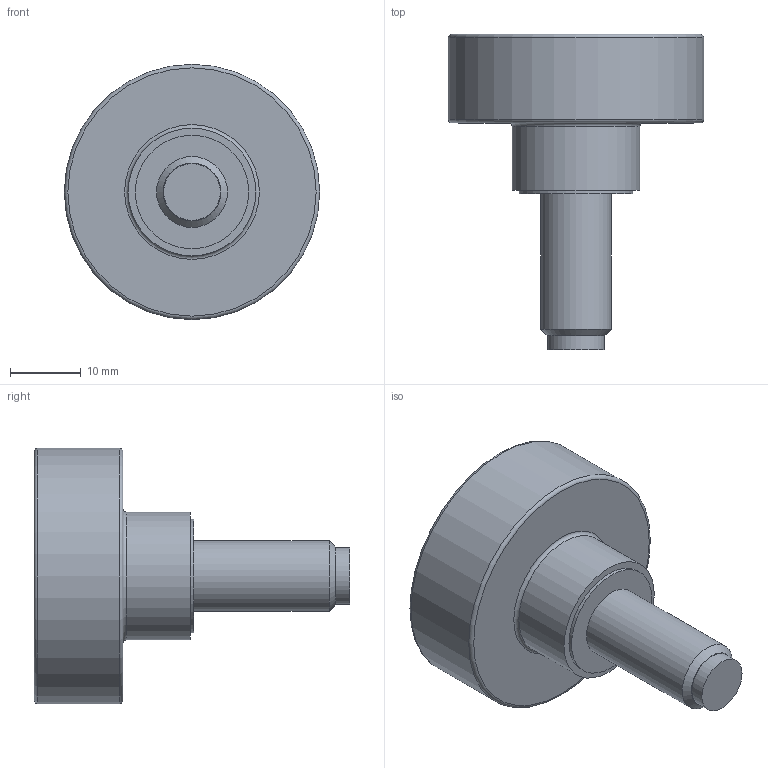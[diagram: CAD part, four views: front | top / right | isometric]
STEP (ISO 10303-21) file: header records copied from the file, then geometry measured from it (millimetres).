
FILE_DESCRIPTION( ( 'STEP AP203' ), '1' );
FILE_NAME( 'C:/Temp/Ganter_Step_05_03_2020/data/2_2/gn_421_10/Hollow knurled knob, with tip GN 421.10-M10-20-MS.stp', '2020-03-05T12:25:36', ( 'License CC BY-ND 4.0' ), ( 'CADENAS' ), ' ', 'PARTsolutions', ' ' );
FILE_SCHEMA( ( 'CONFIG_CONTROL_DESIGN' ) );
Length unit declared in the file: millimetre
Products named in the file (1): _Hollow knurled knob, with tip GN 421.10-M10-20-MS
Bounding box: 36 x 44.5 x 36 mm (x, y, z)
Volume: 10922.5 mm3; surface area: 5514.7 mm2
Topology: 1 solids, 1 shells, 19 faces, 30 edges, 19 vertices
Faces by surface type: plane 8, cylinder 7, torus 3, cone 1
Full cylindrical faces by diameter (mm): 8 x1, 10 x1, 14 x1, 16 x1, 18 x1, 31 x1, 36 x1
Entity records: 418 total; most frequent: DIRECTION 76, CARTESIAN_POINT 56, AXIS2_PLACEMENT_3D 38, EDGE_LOOP 36, ORIENTED_EDGE 36, FACE_OUTER_BOUND 29, ADVANCED_FACE 19, EDGE_CURVE 18
